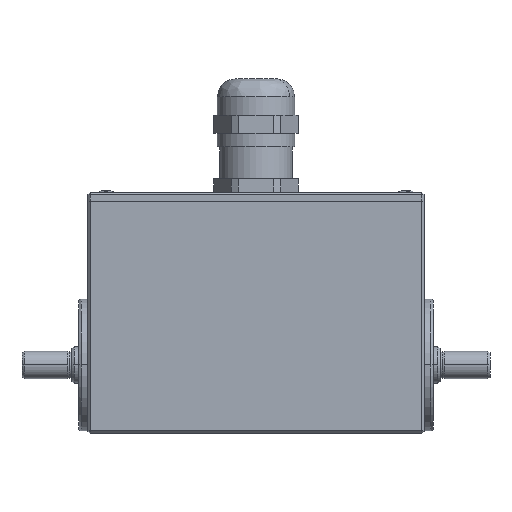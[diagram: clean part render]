
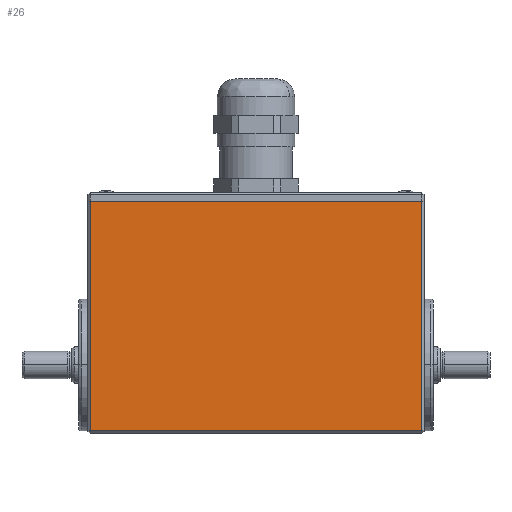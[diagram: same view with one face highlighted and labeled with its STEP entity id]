
A CAD part, top view. The second image highlights one B-rep face of the part: STEP entity #26.
In plain terms, the highlighted planar face has unit normal (0, 0, 1).
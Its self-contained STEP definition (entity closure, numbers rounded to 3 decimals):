
#26 = ADVANCED_FACE ( 'NONE', ( #8247 ), #8956, .T. ) ;
#165 = CARTESIAN_POINT ( 'NONE',  ( -74., 36., 15. ) ) ;
#240 = EDGE_CURVE ( 'NONE', #7599, #4387, #4598, .T. ) ;
#370 = DIRECTION ( 'NONE',  ( 0., 0., 1. ) ) ;
#1020 = VECTOR ( 'NONE', #8595, 1000. ) ;
#1425 = VECTOR ( 'NONE', #4322, 1000. ) ;
#1571 = CARTESIAN_POINT ( 'NONE',  ( -0.5, -15., 15. ) ) ;
#1880 = ORIENTED_EDGE ( 'NONE', *, *, #2124, .T. ) ;
#2124 = EDGE_CURVE ( 'NONE', #8093, #2674, #4677, .T. ) ;
#2674 = VERTEX_POINT ( 'NONE', #9172 ) ;
#3623 = ORIENTED_EDGE ( 'NONE', *, *, #4553, .F. ) ;
#3839 = CARTESIAN_POINT ( 'NONE',  ( -74., 36., 15. ) ) ;
#3846 = LINE ( 'NONE', #1571, #1425 ) ;
#3992 = EDGE_CURVE ( 'NONE', #2674, #7599, #3846, .T. ) ;
#4322 = DIRECTION ( 'NONE',  ( 0., 1., 0. ) ) ;
#4387 = VERTEX_POINT ( 'NONE', #8776 ) ;
#4553 = EDGE_CURVE ( 'NONE', #8093, #4387, #7054, .T. ) ;
#4598 = LINE ( 'NONE', #3839, #8136 ) ;
#4677 = LINE ( 'NONE', #7150, #1020 ) ;
#4842 = CARTESIAN_POINT ( 'NONE',  ( -73.5, -14.5, 15. ) ) ;
#4995 = AXIS2_PLACEMENT_3D ( 'NONE', #165, #370, #8338 ) ;
#5079 = CARTESIAN_POINT ( 'NONE',  ( -73.5, 36., 15. ) ) ;
#5088 = CARTESIAN_POINT ( 'NONE',  ( -0.5, 36., 15. ) ) ;
#6784 = ORIENTED_EDGE ( 'NONE', *, *, #3992, .T. ) ;
#7054 = LINE ( 'NONE', #5079, #8437 ) ;
#7150 = CARTESIAN_POINT ( 'NONE',  ( -74., -14.5, 15. ) ) ;
#7599 = VERTEX_POINT ( 'NONE', #5088 ) ;
#8093 = VERTEX_POINT ( 'NONE', #4842 ) ;
#8136 = VECTOR ( 'NONE', #8307, 1000. ) ;
#8247 = FACE_OUTER_BOUND ( 'NONE', #8929, .T. ) ;
#8307 = DIRECTION ( 'NONE',  ( -1., 0., 0. ) ) ;
#8338 = DIRECTION ( 'NONE',  ( 0., -1., 0. ) ) ;
#8437 = VECTOR ( 'NONE', #9612, 1000. ) ;
#8595 = DIRECTION ( 'NONE',  ( 1., 0., 0. ) ) ;
#8776 = CARTESIAN_POINT ( 'NONE',  ( -73.5, 36., 15. ) ) ;
#8929 = EDGE_LOOP ( 'NONE', ( #1880, #6784, #9098, #3623 ) ) ;
#8956 = PLANE ( 'NONE',  #4995 ) ;
#9098 = ORIENTED_EDGE ( 'NONE', *, *, #240, .T. ) ;
#9172 = CARTESIAN_POINT ( 'NONE',  ( -0.5, -14.5, 15. ) ) ;
#9612 = DIRECTION ( 'NONE',  ( 0., 1., 0. ) ) ;
